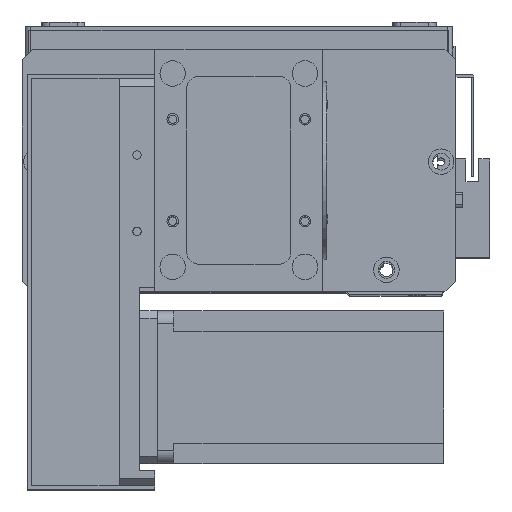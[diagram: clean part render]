
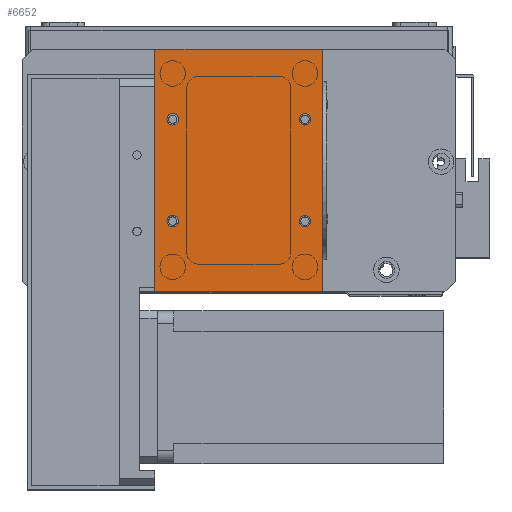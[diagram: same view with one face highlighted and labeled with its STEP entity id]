
A CAD part, top view. The second image highlights one B-rep face of the part: STEP entity #6652.
In plain terms, the highlighted planar face has unit normal (0, 0, 1).
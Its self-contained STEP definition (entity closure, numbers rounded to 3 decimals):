
#63 = LINE ( 'NONE', #7324, #23938 ) ;
#84 = DIRECTION ( 'NONE',  ( 0., 0., 1. ) ) ;
#354 = CARTESIAN_POINT ( 'NONE',  ( 0., 0., 2. ) ) ;
#369 = VERTEX_POINT ( 'NONE', #13907 ) ;
#1490 = CARTESIAN_POINT ( 'NONE',  ( 66., 0., 2. ) ) ;
#1589 = EDGE_CURVE ( 'NONE', #27809, #6857, #26841, .T. ) ;
#1648 = CIRCLE ( 'NONE', #29652, 2.25 ) ;
#2047 = CIRCLE ( 'NONE', #8961, 2.25 ) ;
#2049 = DIRECTION ( 'NONE',  ( 1., 0., 0. ) ) ;
#2102 = CARTESIAN_POINT ( 'NONE',  ( 4.75, 67.5, 2. ) ) ;
#2728 = DIRECTION ( 'NONE',  ( 0., 0., -1. ) ) ;
#3461 = EDGE_CURVE ( 'NONE', #369, #18821, #18064, .T. ) ;
#4215 = CARTESIAN_POINT ( 'NONE',  ( 56.75, 27.5, 2. ) ) ;
#4572 = VECTOR ( 'NONE', #27228, 1000. ) ;
#4699 = EDGE_CURVE ( 'NONE', #6857, #369, #63, .T. ) ;
#4792 = AXIS2_PLACEMENT_3D ( 'NONE', #354, #2728, #19449 ) ;
#5031 = CARTESIAN_POINT ( 'NONE',  ( 7., 27.5, 2. ) ) ;
#5368 = DIRECTION ( 'NONE',  ( 0., 0., 1. ) ) ;
#5573 = EDGE_CURVE ( 'NONE', #21100, #13579, #9301, .T. ) ;
#6504 = CIRCLE ( 'NONE', #29281, 2.25 ) ;
#6652 = ADVANCED_FACE ( 'NONE', ( #11124, #22348, #23097, #12582, #15985 ), #21737, .F. ) ;
#6857 = VERTEX_POINT ( 'NONE', #27265 ) ;
#7122 = ORIENTED_EDGE ( 'NONE', *, *, #11270, .F. ) ;
#7324 = CARTESIAN_POINT ( 'NONE',  ( 0., 0., 2. ) ) ;
#7413 = EDGE_CURVE ( 'NONE', #15418, #22414, #10700, .T. ) ;
#7424 = DIRECTION ( 'NONE',  ( 1., 0., 0. ) ) ;
#7577 = EDGE_CURVE ( 'NONE', #22414, #15418, #18200, .T. ) ;
#8275 = DIRECTION ( 'NONE',  ( 0., 0., 1. ) ) ;
#8324 = CARTESIAN_POINT ( 'NONE',  ( 59., 27.5, 2. ) ) ;
#8961 = AXIS2_PLACEMENT_3D ( 'NONE', #9888, #26618, #12266 ) ;
#9085 = EDGE_LOOP ( 'NONE', ( #20866, #15581 ) ) ;
#9301 = CIRCLE ( 'NONE', #9954, 2.25 ) ;
#9388 = EDGE_LOOP ( 'NONE', ( #30730, #15600 ) ) ;
#9403 = AXIS2_PLACEMENT_3D ( 'NONE', #14336, #84, #16749 ) ;
#9547 = EDGE_CURVE ( 'NONE', #13579, #21100, #6504, .T. ) ;
#9615 = ORIENTED_EDGE ( 'NONE', *, *, #7577, .F. ) ;
#9888 = CARTESIAN_POINT ( 'NONE',  ( 7., 27.5, 2. ) ) ;
#9954 = AXIS2_PLACEMENT_3D ( 'NONE', #8324, #25043, #10720 ) ;
#9989 = VECTOR ( 'NONE', #13460, 1000. ) ;
#10700 = CIRCLE ( 'NONE', #19668, 2.25 ) ;
#10720 = DIRECTION ( 'NONE',  ( 1., 0., 0. ) ) ;
#10793 = CARTESIAN_POINT ( 'NONE',  ( 9.25, 67.5, 2. ) ) ;
#11124 = FACE_BOUND ( 'NONE', #19667, .T. ) ;
#11270 = EDGE_CURVE ( 'NONE', #20377, #25221, #23209, .T. ) ;
#11562 = ORIENTED_EDGE ( 'NONE', *, *, #4699, .T. ) ;
#11858 = AXIS2_PLACEMENT_3D ( 'NONE', #5031, #21761, #7424 ) ;
#12266 = DIRECTION ( 'NONE',  ( 1., 0., 0. ) ) ;
#12582 = FACE_BOUND ( 'NONE', #24402, .T. ) ;
#13460 = DIRECTION ( 'NONE',  ( 0., 1., 0. ) ) ;
#13579 = VERTEX_POINT ( 'NONE', #4215 ) ;
#13732 = CARTESIAN_POINT ( 'NONE',  ( 7., 67.5, 2. ) ) ;
#13907 = CARTESIAN_POINT ( 'NONE',  ( 0., 0., 2. ) ) ;
#14336 = CARTESIAN_POINT ( 'NONE',  ( 7., 67.5, 2. ) ) ;
#14421 = DIRECTION ( 'NONE',  ( 0., -1., 0. ) ) ;
#15246 = AXIS2_PLACEMENT_3D ( 'NONE', #30646, #16341, #2049 ) ;
#15418 = VERTEX_POINT ( 'NONE', #2102 ) ;
#15581 = ORIENTED_EDGE ( 'NONE', *, *, #9547, .F. ) ;
#15600 = ORIENTED_EDGE ( 'NONE', *, *, #25710, .F. ) ;
#15985 = FACE_OUTER_BOUND ( 'NONE', #18356, .T. ) ;
#16142 = DIRECTION ( 'NONE',  ( 1., 0., 0. ) ) ;
#16341 = DIRECTION ( 'NONE',  ( 0., 0., 1. ) ) ;
#16749 = DIRECTION ( 'NONE',  ( 1., 0., 0. ) ) ;
#16772 = CARTESIAN_POINT ( 'NONE',  ( 4.75, 27.5, 2. ) ) ;
#17211 = CARTESIAN_POINT ( 'NONE',  ( 61.25, 67.5, 2. ) ) ;
#17294 = EDGE_CURVE ( 'NONE', #18821, #27809, #22740, .T. ) ;
#17679 = VERTEX_POINT ( 'NONE', #17211 ) ;
#18064 = LINE ( 'NONE', #20047, #4572 ) ;
#18177 = ORIENTED_EDGE ( 'NONE', *, *, #17294, .T. ) ;
#18200 = CIRCLE ( 'NONE', #9403, 2.25 ) ;
#18266 = VECTOR ( 'NONE', #19799, 1000. ) ;
#18356 = EDGE_LOOP ( 'NONE', ( #11562, #25437, #18177, #25850 ) ) ;
#18821 = VERTEX_POINT ( 'NONE', #23925 ) ;
#19449 = DIRECTION ( 'NONE',  ( -1., 0., 0. ) ) ;
#19667 = EDGE_LOOP ( 'NONE', ( #9615, #25310 ) ) ;
#19668 = AXIS2_PLACEMENT_3D ( 'NONE', #13732, #30471, #16142 ) ;
#19712 = CARTESIAN_POINT ( 'NONE',  ( 59., 67.5, 2. ) ) ;
#19799 = DIRECTION ( 'NONE',  ( -1., 0., 0. ) ) ;
#20047 = CARTESIAN_POINT ( 'NONE',  ( 0., 0., 2. ) ) ;
#20377 = VERTEX_POINT ( 'NONE', #29577 ) ;
#20589 = CARTESIAN_POINT ( 'NONE',  ( 61.25, 27.5, 2. ) ) ;
#20866 = ORIENTED_EDGE ( 'NONE', *, *, #5573, .F. ) ;
#21100 = VERTEX_POINT ( 'NONE', #20589 ) ;
#21426 = CIRCLE ( 'NONE', #15246, 2.25 ) ;
#21737 = PLANE ( 'NONE',  #4792 ) ;
#21761 = DIRECTION ( 'NONE',  ( 0., 0., 1. ) ) ;
#22096 = DIRECTION ( 'NONE',  ( 1., 0., 0. ) ) ;
#22348 = FACE_BOUND ( 'NONE', #9388, .T. ) ;
#22414 = VERTEX_POINT ( 'NONE', #10793 ) ;
#22603 = CARTESIAN_POINT ( 'NONE',  ( 59., 27.5, 2. ) ) ;
#22740 = LINE ( 'NONE', #1490, #9989 ) ;
#23097 = FACE_BOUND ( 'NONE', #9085, .T. ) ;
#23209 = CIRCLE ( 'NONE', #11858, 2.25 ) ;
#23751 = CARTESIAN_POINT ( 'NONE',  ( 0., 95., 2. ) ) ;
#23925 = CARTESIAN_POINT ( 'NONE',  ( 66., 0., 2. ) ) ;
#23938 = VECTOR ( 'NONE', #14421, 1000. ) ;
#24402 = EDGE_LOOP ( 'NONE', ( #7122, #30440 ) ) ;
#24999 = DIRECTION ( 'NONE',  ( 1., 0., 0. ) ) ;
#25043 = DIRECTION ( 'NONE',  ( 0., 0., 1. ) ) ;
#25081 = EDGE_CURVE ( 'NONE', #25221, #20377, #2047, .T. ) ;
#25221 = VERTEX_POINT ( 'NONE', #16772 ) ;
#25310 = ORIENTED_EDGE ( 'NONE', *, *, #7413, .F. ) ;
#25437 = ORIENTED_EDGE ( 'NONE', *, *, #3461, .T. ) ;
#25451 = CARTESIAN_POINT ( 'NONE',  ( 56.75, 67.5, 2. ) ) ;
#25710 = EDGE_CURVE ( 'NONE', #28215, #17679, #21426, .T. ) ;
#25766 = EDGE_CURVE ( 'NONE', #17679, #28215, #1648, .T. ) ;
#25850 = ORIENTED_EDGE ( 'NONE', *, *, #1589, .T. ) ;
#26618 = DIRECTION ( 'NONE',  ( 0., 0., 1. ) ) ;
#26841 = LINE ( 'NONE', #23751, #18266 ) ;
#27228 = DIRECTION ( 'NONE',  ( 1., 0., 0. ) ) ;
#27265 = CARTESIAN_POINT ( 'NONE',  ( 0., 95., 2. ) ) ;
#27304 = CARTESIAN_POINT ( 'NONE',  ( 66., 95., 2. ) ) ;
#27809 = VERTEX_POINT ( 'NONE', #27304 ) ;
#28215 = VERTEX_POINT ( 'NONE', #25451 ) ;
#29281 = AXIS2_PLACEMENT_3D ( 'NONE', #22603, #8275, #24999 ) ;
#29577 = CARTESIAN_POINT ( 'NONE',  ( 9.25, 27.5, 2. ) ) ;
#29652 = AXIS2_PLACEMENT_3D ( 'NONE', #19712, #5368, #22096 ) ;
#30440 = ORIENTED_EDGE ( 'NONE', *, *, #25081, .F. ) ;
#30471 = DIRECTION ( 'NONE',  ( 0., 0., 1. ) ) ;
#30646 = CARTESIAN_POINT ( 'NONE',  ( 59., 67.5, 2. ) ) ;
#30730 = ORIENTED_EDGE ( 'NONE', *, *, #25766, .F. ) ;
